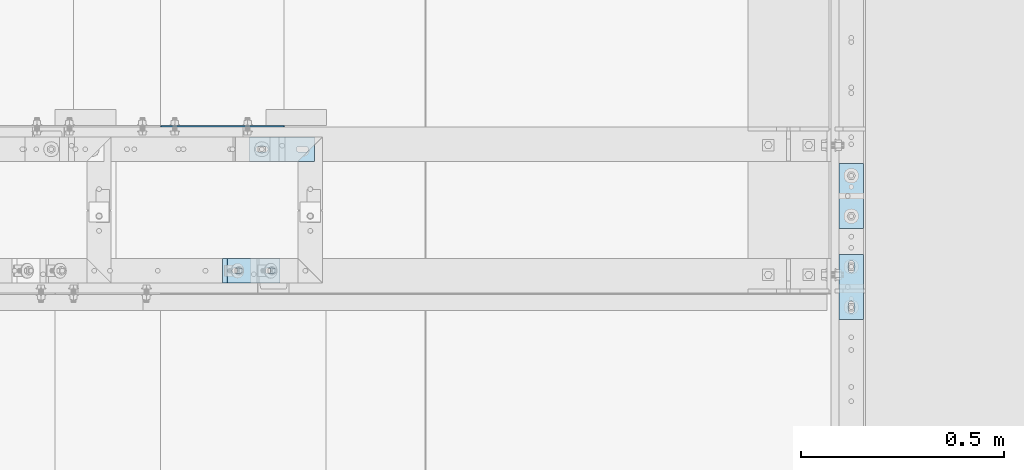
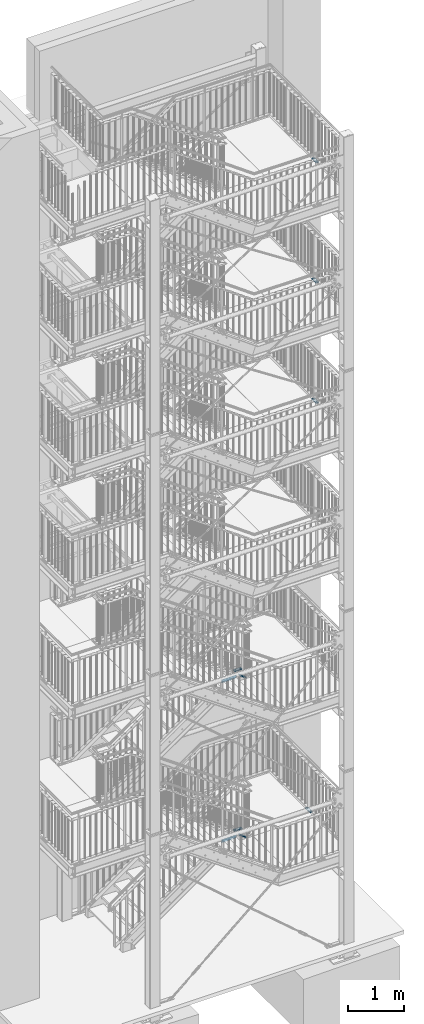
# One storey, part 204 of 831: 10 plates, 20 openings.
"""IFC2X3 building model written with IfcOpenShell, lengths in millimetres."""

from ifc_helpers import new_model, entity, si_unit, converted_unit, point, frame, frame_2d, origin, origin_with_axes, origin_2d_with_axis, place, context, project, spatial, polyline, circle_curve, line_curve, trimmed, segment, composite_curve, circle, outline, extrude, material, layer, layer_set, element, save


model = new_model("IFC2X3")

# Units and contexts
model_context = context("Model", 3, precision=1e-09, world=origin_with_axes())
ifc_project = project(units=[si_unit("LENGTHUNIT", "METRE", prefix="MILLI"), si_unit("AREAUNIT", "SQUARE_METRE"), si_unit("VOLUMEUNIT", "CUBIC_METRE"), converted_unit("PLANEANGLEUNIT", "DEGREE", entity("IfcPlaneAngleMeasure", 0.01745329), si_unit("PLANEANGLEUNIT", "RADIAN"), dimensions=[0, 0, 0, 0, 0, 0, 0])], contexts=[model_context])

# Site, building, storey
site_placement = place(None, origin_with_axes())
site = spatial("IfcSite", under=ifc_project, at=site_placement, Name="Site", CompositionType="ELEMENT")
building_placement = place(site_placement, origin_with_axes())
building = spatial("IfcBuilding", under=site, at=building_placement, Name="Struktur 1", CompositionType="ELEMENT")
storey_placement = place(building_placement, origin_with_axes())
storey = spatial("IfcBuildingStorey", under=building, at=storey_placement, Name="Default Storey", CompositionType="ELEMENT", Elevation=0.0)

# Plate, openings
ifc_material = material(Name="S235JR")
ifc_layer_1 = layer(ifc_material, 20.0)
ifc_layer_set_1 = layer_set([ifc_layer_1], Name="S235JR")
plate_1_placement = place(None, frame((9051.713402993, 5671.736114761, 11265.5000003), z_axis=(0.0, 0.0, 1.0), x_axis=(0.0, 1.0, 0.0)))
plate_1 = element("IfcPlate", 1, at=plate_1_placement, inside=storey, material=ifc_layer_set_1, Name="Plate#506", ObjectType="Plate#506", context=model_context, shape_type="SweptSolid", body=[
    extrude(outline(polyline([(0.0, 0.0), (160.0, 0.0), (160.0, 60.0), (0.0, 60.0), (0.0, 0.0)])), origin_with_axes(), (0.0, 0.0, 1.0), 20.0),
])
opening_1_placement = place(plate_1_placement, frame((38.0, 37.001, 20.5), z_axis=(0.0, 0.0, 1.0), x_axis=(-1.0, 0.0, 0.0)))
element("IfcOpeningElement", 2, at=opening_1_placement, cuts=plate_1, ObjectType="Opening", context=model_context, shape_type="SweptSolid", body=[
    extrude(outline(composite_curve([segment(trimmed(line_curve((0.0, 0.0), (1.0, 0.0), 16.0), [point((0.0, 0.0))], [point((16.0, 0.0))], True, "CARTESIAN"), True, "CONTINUOUS"), segment(trimmed(circle_curve(frame_2d((16.0, 7.001), x_axis=(1.0, 0.0)), 7.001), [point((16.0, 0.0))], [point((16.0, 14.002))], True, "CARTESIAN"), True, "CONTINUOUS"), segment(trimmed(line_curve((16.0, 14.002), (-1.0, 0.0), 16.0), [point((16.0, 14.002))], [point((0.0, 14.002))], True, "CARTESIAN"), True, "CONTINUOUS"), segment(trimmed(circle_curve(frame_2d((0.0, 7.001), x_axis=(1.0, 0.0)), 7.001), [point((0.0, 14.002))], [point((0.0, 0.0))], True, "CARTESIAN"), True, "CONTINUOUS")], self_intersect=False)), origin(), (0.0, 0.0, -1.0), 21.0),
])
opening_2_placement = place(plate_1_placement, frame((138.0, 37.001, 20.5), z_axis=(0.0, 0.0, 1.0), x_axis=(-1.0, 0.0, 0.0)))
element("IfcOpeningElement", 3, at=opening_2_placement, cuts=plate_1, ObjectType="Opening", context=model_context, shape_type="SweptSolid", body=[
    extrude(outline(composite_curve([segment(trimmed(line_curve((0.0, 0.0), (1.0, 0.0), 16.0), [point((0.0, 0.0))], [point((16.0, 0.0))], True, "CARTESIAN"), True, "CONTINUOUS"), segment(trimmed(circle_curve(frame_2d((16.0, 7.001), x_axis=(1.0, 0.0)), 7.001), [point((16.0, 0.0))], [point((16.0, 14.002))], True, "CARTESIAN"), True, "CONTINUOUS"), segment(trimmed(line_curve((16.0, 14.002), (-1.0, 0.0), 16.0), [point((16.0, 14.002))], [point((0.0, 14.002))], True, "CARTESIAN"), True, "CONTINUOUS"), segment(trimmed(circle_curve(frame_2d((0.0, 7.001), x_axis=(1.0, 0.0)), 7.001), [point((0.0, 14.002))], [point((0.0, 0.0))], True, "CARTESIAN"), True, "CONTINUOUS")], self_intersect=False)), origin(), (0.0, 0.0, -1.0), 21.0),
])

plate_2_placement = place(None, frame((9051.713402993, 5671.73611476, 13896.5000001), z_axis=(0.0, 0.0, 1.0), x_axis=(0.0, 1.0, 0.0)))
plate_2 = element("IfcPlate", 4, at=plate_2_placement, inside=storey, material=ifc_layer_set_1, Name="Plate#506", ObjectType="Plate#506", context=model_context, shape_type="SweptSolid", body=[
    extrude(outline(polyline([(0.0, 0.0), (160.0, 0.0), (160.0, 60.0), (0.0, 60.0), (0.0, 0.0)])), origin_with_axes(), (0.0, 0.0, 1.0), 20.0),
])
opening_3_placement = place(plate_2_placement, frame((38.0, 37.001, 20.5), z_axis=(0.0, 0.0, 1.0), x_axis=(-1.0, 0.0, 0.0)))
element("IfcOpeningElement", 5, at=opening_3_placement, cuts=plate_2, ObjectType="Opening", context=model_context, shape_type="SweptSolid", body=[
    extrude(outline(composite_curve([segment(trimmed(line_curve((0.0, 0.0), (1.0, 0.0), 16.0), [point((0.0, 0.0))], [point((16.0, 0.0))], True, "CARTESIAN"), True, "CONTINUOUS"), segment(trimmed(circle_curve(frame_2d((16.0, 7.001), x_axis=(1.0, 0.0)), 7.001), [point((16.0, 0.0))], [point((16.0, 14.002))], True, "CARTESIAN"), True, "CONTINUOUS"), segment(trimmed(line_curve((16.0, 14.002), (-1.0, 0.0), 16.0), [point((16.0, 14.002))], [point((0.0, 14.002))], True, "CARTESIAN"), True, "CONTINUOUS"), segment(trimmed(circle_curve(frame_2d((0.0, 7.001), x_axis=(1.0, 0.0)), 7.001), [point((0.0, 14.002))], [point((0.0, 0.0))], True, "CARTESIAN"), True, "CONTINUOUS")], self_intersect=False)), origin(), (0.0, 0.0, -1.0), 21.0),
])
opening_4_placement = place(plate_2_placement, frame((138.0, 37.001, 20.5), z_axis=(0.0, 0.0, 1.0), x_axis=(-1.0, 0.0, 0.0)))
element("IfcOpeningElement", 6, at=opening_4_placement, cuts=plate_2, ObjectType="Opening", context=model_context, shape_type="SweptSolid", body=[
    extrude(outline(composite_curve([segment(trimmed(line_curve((0.0, 0.0), (1.0, 0.0), 16.0), [point((0.0, 0.0))], [point((16.0, 0.0))], True, "CARTESIAN"), True, "CONTINUOUS"), segment(trimmed(circle_curve(frame_2d((16.0, 7.001), x_axis=(1.0, 0.0)), 7.001), [point((16.0, 0.0))], [point((16.0, 14.002))], True, "CARTESIAN"), True, "CONTINUOUS"), segment(trimmed(line_curve((16.0, 14.002), (-1.0, 0.0), 16.0), [point((16.0, 14.002))], [point((0.0, 14.002))], True, "CARTESIAN"), True, "CONTINUOUS"), segment(trimmed(circle_curve(frame_2d((0.0, 7.001), x_axis=(1.0, 0.0)), 7.001), [point((0.0, 14.002))], [point((0.0, 0.0))], True, "CARTESIAN"), True, "CONTINUOUS")], self_intersect=False)), origin(), (0.0, 0.0, -1.0), 21.0),
])

plate_3_placement = place(None, frame((9051.713402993, 5671.736114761, 16524.0000003), z_axis=(0.0, 0.0, 1.0), x_axis=(0.0, 1.0, 0.0)))
plate_3 = element("IfcPlate", 7, at=plate_3_placement, inside=storey, material=ifc_layer_set_1, Name="Plate#506", ObjectType="Plate#506", context=model_context, shape_type="SweptSolid", body=[
    extrude(outline(polyline([(0.0, 0.0), (160.0, 0.0), (160.0, 60.0), (0.0, 60.0), (0.0, 0.0)])), origin_with_axes(), (0.0, 0.0, 1.0), 20.0),
])
opening_5_placement = place(plate_3_placement, frame((38.0, 37.001, 20.5), z_axis=(0.0, 0.0, 1.0), x_axis=(-1.0, 0.0, 0.0)))
element("IfcOpeningElement", 8, at=opening_5_placement, cuts=plate_3, ObjectType="Opening", context=model_context, shape_type="SweptSolid", body=[
    extrude(outline(composite_curve([segment(trimmed(line_curve((0.0, 0.0), (1.0, 0.0), 16.0), [point((0.0, 0.0))], [point((16.0, 0.0))], True, "CARTESIAN"), True, "CONTINUOUS"), segment(trimmed(circle_curve(frame_2d((16.0, 7.001), x_axis=(1.0, 0.0)), 7.001), [point((16.0, 0.0))], [point((16.0, 14.002))], True, "CARTESIAN"), True, "CONTINUOUS"), segment(trimmed(line_curve((16.0, 14.002), (-1.0, 0.0), 16.0), [point((16.0, 14.002))], [point((0.0, 14.002))], True, "CARTESIAN"), True, "CONTINUOUS"), segment(trimmed(circle_curve(frame_2d((0.0, 7.001), x_axis=(1.0, 0.0)), 7.001), [point((0.0, 14.002))], [point((0.0, 0.0))], True, "CARTESIAN"), True, "CONTINUOUS")], self_intersect=False)), origin(), (0.0, 0.0, -1.0), 21.0),
])
opening_6_placement = place(plate_3_placement, frame((138.0, 37.001, 20.5), z_axis=(0.0, 0.0, 1.0), x_axis=(-1.0, 0.0, 0.0)))
element("IfcOpeningElement", 9, at=opening_6_placement, cuts=plate_3, ObjectType="Opening", context=model_context, shape_type="SweptSolid", body=[
    extrude(outline(composite_curve([segment(trimmed(line_curve((0.0, 0.0), (1.0, 0.0), 16.0), [point((0.0, 0.0))], [point((16.0, 0.0))], True, "CARTESIAN"), True, "CONTINUOUS"), segment(trimmed(circle_curve(frame_2d((16.0, 7.001), x_axis=(1.0, 0.0)), 7.001), [point((16.0, 0.0))], [point((16.0, 14.002))], True, "CARTESIAN"), True, "CONTINUOUS"), segment(trimmed(line_curve((16.0, 14.002), (-1.0, 0.0), 16.0), [point((16.0, 14.002))], [point((0.0, 14.002))], True, "CARTESIAN"), True, "CONTINUOUS"), segment(trimmed(circle_curve(frame_2d((0.0, 7.001), x_axis=(1.0, 0.0)), 7.001), [point((0.0, 14.002))], [point((0.0, 0.0))], True, "CARTESIAN"), True, "CONTINUOUS")], self_intersect=False)), origin(), (0.0, 0.0, -1.0), 21.0),
])

plate_4_placement = place(None, frame((7696.713902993, 6121.736971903, 2181.0526312), z_axis=(0.0, 0.0, 1.0), x_axis=(-1.0, 0.0, 0.0)))
plate_4 = element("IfcPlate", 10, at=plate_4_placement, inside=storey, material=ifc_layer_set_1, Name="Plate#502", ObjectType="Plate#502", context=model_context, shape_type="SweptSolid", body=[
    extrude(outline(polyline([(0.0, 0.0), (160.0, 0.0), (160.0, 60.0), (0.0, 60.0), (0.0, 0.0)])), origin_with_axes(), (0.0, 0.0, 1.0), 20.0),
])
opening_7_placement = place(plate_4_placement, frame((38.0, 37.001, 20.5), z_axis=(0.0, 0.0, 1.0), x_axis=(-1.0, 0.0, 0.0)))
element("IfcOpeningElement", 11, at=opening_7_placement, cuts=plate_4, ObjectType="Opening", context=model_context, shape_type="SweptSolid", body=[
    extrude(outline(composite_curve([segment(trimmed(line_curve((0.0, 0.0), (1.0, 0.0), 16.0), [point((0.0, 0.0))], [point((16.0, 0.0))], True, "CARTESIAN"), True, "CONTINUOUS"), segment(trimmed(circle_curve(frame_2d((16.0, 7.001), x_axis=(1.0, 0.0)), 7.001), [point((16.0, 0.0))], [point((16.0, 14.002))], True, "CARTESIAN"), True, "CONTINUOUS"), segment(trimmed(line_curve((16.0, 14.002), (-1.0, 0.0), 16.0), [point((16.0, 14.002))], [point((0.0, 14.002))], True, "CARTESIAN"), True, "CONTINUOUS"), segment(trimmed(circle_curve(frame_2d((0.0, 7.001), x_axis=(1.0, 0.0)), 7.001), [point((0.0, 14.002))], [point((0.0, 0.0))], True, "CARTESIAN"), True, "CONTINUOUS")], self_intersect=False)), origin(), (0.0, 0.0, -1.0), 21.0),
])
opening_8_placement = place(plate_4_placement, frame((138.0, 37.001, 20.5), z_axis=(0.0, 0.0, 1.0), x_axis=(-1.0, 0.0, 0.0)))
element("IfcOpeningElement", 12, at=opening_8_placement, cuts=plate_4, ObjectType="Opening", context=model_context, shape_type="SweptSolid", body=[
    extrude(outline(composite_curve([segment(trimmed(line_curve((0.0, 0.0), (1.0, 0.0), 16.0), [point((0.0, 0.0))], [point((16.0, 0.0))], True, "CARTESIAN"), True, "CONTINUOUS"), segment(trimmed(circle_curve(frame_2d((16.0, 7.001), x_axis=(1.0, 0.0)), 7.001), [point((16.0, 0.0))], [point((16.0, 14.002))], True, "CARTESIAN"), True, "CONTINUOUS"), segment(trimmed(line_curve((16.0, 14.002), (-1.0, 0.0), 16.0), [point((16.0, 14.002))], [point((0.0, 14.002))], True, "CARTESIAN"), True, "CONTINUOUS"), segment(trimmed(circle_curve(frame_2d((0.0, 7.001), x_axis=(1.0, 0.0)), 7.001), [point((0.0, 14.002))], [point((0.0, 0.0))], True, "CARTESIAN"), True, "CONTINUOUS")], self_intersect=False)), origin(), (0.0, 0.0, -1.0), 21.0),
])

plate_5_placement = place(None, frame((9051.713402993, 5896.351913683, 2181.0526312), z_axis=(0.0, 0.0, 1.0), x_axis=(0.0, 1.0, 0.0)))
plate_5 = element("IfcPlate", 13, at=plate_5_placement, inside=storey, material=ifc_layer_set_1, Name="Plate#505", ObjectType="Plate#505", context=model_context, shape_type="SweptSolid", body=[
    extrude(outline(polyline([(0.0, 0.0), (160.0, 0.0), (160.0, 60.0), (0.0, 60.0), (0.0, 0.0)])), origin_with_axes(), (0.0, 0.0, 1.0), 20.0),
])
opening_9_placement = place(plate_5_placement, frame((38.0, 37.001, 20.5), z_axis=(0.0, 0.0, 1.0), x_axis=(-1.0, 0.0, 0.0)))
element("IfcOpeningElement", 14, at=opening_9_placement, cuts=plate_5, ObjectType="Opening", context=model_context, shape_type="SweptSolid", body=[
    extrude(outline(composite_curve([segment(trimmed(line_curve((0.0, 0.0), (1.0, 0.0), 16.0), [point((0.0, 0.0))], [point((16.0, 0.0))], True, "CARTESIAN"), True, "CONTINUOUS"), segment(trimmed(circle_curve(frame_2d((16.0, 7.001), x_axis=(1.0, 0.0)), 7.001), [point((16.0, 0.0))], [point((16.0, 14.002))], True, "CARTESIAN"), True, "CONTINUOUS"), segment(trimmed(line_curve((16.0, 14.002), (-1.0, 0.0), 16.0), [point((16.0, 14.002))], [point((0.0, 14.002))], True, "CARTESIAN"), True, "CONTINUOUS"), segment(trimmed(circle_curve(frame_2d((0.0, 7.001), x_axis=(1.0, 0.0)), 7.001), [point((0.0, 14.002))], [point((0.0, 0.0))], True, "CARTESIAN"), True, "CONTINUOUS")], self_intersect=False)), origin(), (0.0, 0.0, -1.0), 21.0),
])
opening_10_placement = place(plate_5_placement, frame((138.0, 37.001, 20.5), z_axis=(0.0, 0.0, 1.0), x_axis=(-1.0, 0.0, 0.0)))
element("IfcOpeningElement", 15, at=opening_10_placement, cuts=plate_5, ObjectType="Opening", context=model_context, shape_type="SweptSolid", body=[
    extrude(outline(composite_curve([segment(trimmed(line_curve((0.0, 0.0), (1.0, 0.0), 16.0), [point((0.0, 0.0))], [point((16.0, 0.0))], True, "CARTESIAN"), True, "CONTINUOUS"), segment(trimmed(circle_curve(frame_2d((16.0, 7.001), x_axis=(1.0, 0.0)), 7.001), [point((16.0, 0.0))], [point((16.0, 14.002))], True, "CARTESIAN"), True, "CONTINUOUS"), segment(trimmed(line_curve((16.0, 14.002), (-1.0, 0.0), 16.0), [point((16.0, 14.002))], [point((0.0, 14.002))], True, "CARTESIAN"), True, "CONTINUOUS"), segment(trimmed(circle_curve(frame_2d((0.0, 7.001), x_axis=(1.0, 0.0)), 7.001), [point((0.0, 14.002))], [point((0.0, 0.0))], True, "CARTESIAN"), True, "CONTINUOUS")], self_intersect=False)), origin(), (0.0, 0.0, -1.0), 21.0),
])

ifc_layer_2 = layer(ifc_material, 3.0)
ifc_layer_set_2 = layer_set([ifc_layer_2], Name="S235JR")
plate_6_placement = place(None, frame((7316.713402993, 6149.736971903, 2035.947368), z_axis=(0.0, -1.0, 0.0), x_axis=(0.0, 0.0, -1.0)))
plate_6 = element("IfcPlate", 16, at=plate_6_placement, inside=storey, material=ifc_layer_set_2, Name="Grate_Step#59", ObjectType="Grate_Step#59", context=model_context, shape_type="SweptSolid", body=[
    extrude(outline(polyline([(0.0, 0.0), (70.0, 0.0), (70.0, 275.0), (40.0, 305.0), (0.0, 305.0), (0.0, 0.0)])), origin_with_axes(), (0.0, 0.0, 1.0), 3.0),
])
opening_11_placement = place(plate_6_placement, frame((55.0, 215.0, -0.5), z_axis=(0.0, 0.0, 1.0), x_axis=(0.0, 1.0, 0.0)))
element("IfcOpeningElement", 17, at=opening_11_placement, cuts=plate_6, ObjectType="Opening", context=model_context, shape_type="SweptSolid", body=[
    extrude(outline(composite_curve([segment(trimmed(line_curve((-9.5, -7.001), (1.0, 0.0), 19.0), [point((-9.5, -7.001))], [point((9.5, -7.001))], True, "CARTESIAN"), True, "CONTINUOUS"), segment(trimmed(circle_curve(frame_2d((9.5, 0.0), x_axis=(1.0, 0.0)), 7.001), [point((9.5, -7.001))], [point((9.5, 7.001))], True, "CARTESIAN"), True, "CONTINUOUS"), segment(trimmed(line_curve((9.5, 7.001), (-1.0, 0.0), 19.0), [point((9.5, 7.001))], [point((-9.5, 7.001))], True, "CARTESIAN"), True, "CONTINUOUS"), segment(trimmed(circle_curve(frame_2d((-9.5, 0.0), x_axis=(1.0, 0.0)), 7.001), [point((-9.5, 7.001))], [point((-9.5, -7.001))], True, "CARTESIAN"), True, "CONTINUOUS")], self_intersect=False)), origin(), (0.0, 0.0, 1.0), 4.0),
])
opening_12_placement = place(plate_6_placement, frame((55.0, 35.0, -0.5), z_axis=(0.0, 0.0, 1.0), x_axis=(0.0, 1.0, 0.0)))
element("IfcOpeningElement", 18, at=opening_12_placement, cuts=plate_6, ObjectType="Opening", context=model_context, shape_type="SweptSolid", body=[
    extrude(circle(Radius=7.001, at=origin_2d_with_axis()), origin(), (0.0, 0.0, 1.0), 4.0),
])

plate_7_placement = place(None, frame((7316.713402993, 6149.736971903, 5532.105263), z_axis=(0.0, -1.0, 0.0), x_axis=(0.0, 0.0, -1.0)))
plate_7 = element("IfcPlate", 19, at=plate_7_placement, inside=storey, material=ifc_layer_set_2, Name="Grate_Step#59", ObjectType="Grate_Step#59", context=model_context, shape_type="SweptSolid", body=[
    extrude(outline(polyline([(0.0, 0.0), (70.0, 0.0), (70.0, 275.0), (40.0, 305.0), (0.0, 305.0), (0.0, 0.0)])), origin_with_axes(), (0.0, 0.0, 1.0), 3.0),
])
opening_13_placement = place(plate_7_placement, frame((55.0, 35.0, -0.5), z_axis=(0.0, 0.0, 1.0), x_axis=(0.0, 1.0, 0.0)))
element("IfcOpeningElement", 20, at=opening_13_placement, cuts=plate_7, ObjectType="Opening", context=model_context, shape_type="SweptSolid", body=[
    extrude(circle(Radius=7.001, at=origin_2d_with_axis()), origin(), (0.0, 0.0, 1.0), 4.0),
])
opening_14_placement = place(plate_7_placement, frame((55.0, 215.0, -0.5), z_axis=(0.0, 0.0, 1.0), x_axis=(0.0, 1.0, 0.0)))
element("IfcOpeningElement", 21, at=opening_14_placement, cuts=plate_7, ObjectType="Opening", context=model_context, shape_type="SweptSolid", body=[
    extrude(outline(composite_curve([segment(trimmed(line_curve((-9.5, -7.001), (1.0, 0.0), 19.0), [point((-9.5, -7.001))], [point((9.5, -7.001))], True, "CARTESIAN"), True, "CONTINUOUS"), segment(trimmed(circle_curve(frame_2d((9.5, 0.0), x_axis=(1.0, 0.0)), 7.001), [point((9.5, -7.001))], [point((9.5, 7.001))], True, "CARTESIAN"), True, "CONTINUOUS"), segment(trimmed(line_curve((9.5, 7.001), (-1.0, 0.0), 19.0), [point((9.5, 7.001))], [point((-9.5, 7.001))], True, "CARTESIAN"), True, "CONTINUOUS"), segment(trimmed(circle_curve(frame_2d((-9.5, 0.0), x_axis=(1.0, 0.0)), 7.001), [point((-9.5, 7.001))], [point((-9.5, -7.001))], True, "CARTESIAN"), True, "CONTINUOUS")], self_intersect=False)), origin(), (0.0, 0.0, 1.0), 4.0),
])

plate_8_placement = place(None, frame((7696.713902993, 6121.736971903, 5674.8947367), z_axis=(0.0, 0.0, 1.0), x_axis=(-1.0, 0.0, 0.0)))
plate_8 = element("IfcPlate", 22, at=plate_8_placement, inside=storey, material=ifc_layer_set_1, Name="Plate#503", ObjectType="Plate#503", context=model_context, shape_type="SweptSolid", body=[
    extrude(outline(polyline([(0.0, 0.0), (160.0, 0.0), (160.0, 60.0), (0.0, 60.0), (0.0, 0.0)])), origin_with_axes(), (0.0, 0.0, 1.0), 20.0),
])
opening_15_placement = place(plate_8_placement, frame((38.0, 37.001, 20.5), z_axis=(0.0, 0.0, 1.0), x_axis=(-1.0, 0.0, 0.0)))
element("IfcOpeningElement", 23, at=opening_15_placement, cuts=plate_8, ObjectType="Opening", context=model_context, shape_type="SweptSolid", body=[
    extrude(outline(composite_curve([segment(trimmed(line_curve((0.0, 0.0), (1.0, 0.0), 16.0), [point((0.0, 0.0))], [point((16.0, 0.0))], True, "CARTESIAN"), True, "CONTINUOUS"), segment(trimmed(circle_curve(frame_2d((16.0, 7.001), x_axis=(1.0, 0.0)), 7.001), [point((16.0, 0.0))], [point((16.0, 14.002))], True, "CARTESIAN"), True, "CONTINUOUS"), segment(trimmed(line_curve((16.0, 14.002), (-1.0, 0.0), 16.0), [point((16.0, 14.002))], [point((0.0, 14.002))], True, "CARTESIAN"), True, "CONTINUOUS"), segment(trimmed(circle_curve(frame_2d((0.0, 7.001), x_axis=(1.0, 0.0)), 7.001), [point((0.0, 14.002))], [point((0.0, 0.0))], True, "CARTESIAN"), True, "CONTINUOUS")], self_intersect=False)), origin(), (0.0, 0.0, -1.0), 21.0),
])
opening_16_placement = place(plate_8_placement, frame((138.0, 37.001, 20.5), z_axis=(0.0, 0.0, 1.0), x_axis=(-1.0, 0.0, 0.0)))
element("IfcOpeningElement", 24, at=opening_16_placement, cuts=plate_8, ObjectType="Opening", context=model_context, shape_type="SweptSolid", body=[
    extrude(outline(composite_curve([segment(trimmed(line_curve((0.0, 0.0), (1.0, 0.0), 16.0), [point((0.0, 0.0))], [point((16.0, 0.0))], True, "CARTESIAN"), True, "CONTINUOUS"), segment(trimmed(circle_curve(frame_2d((16.0, 7.001), x_axis=(1.0, 0.0)), 7.001), [point((16.0, 0.0))], [point((16.0, 14.002))], True, "CARTESIAN"), True, "CONTINUOUS"), segment(trimmed(line_curve((16.0, 14.002), (-1.0, 0.0), 16.0), [point((16.0, 14.002))], [point((0.0, 14.002))], True, "CARTESIAN"), True, "CONTINUOUS"), segment(trimmed(circle_curve(frame_2d((0.0, 7.001), x_axis=(1.0, 0.0)), 7.001), [point((0.0, 14.002))], [point((0.0, 0.0))], True, "CARTESIAN"), True, "CONTINUOUS")], self_intersect=False)), origin(), (0.0, 0.0, -1.0), 21.0),
])

plate_9_placement = place(None, frame((7470.039705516, 5761.736971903, 2296.998257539), z_axis=(0.579973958, 0.0, 0.814635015), x_axis=(0.814635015, 0.0, -0.579973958)))
plate_9 = element("IfcPlate", 25, at=plate_9_placement, inside=storey, material=ifc_layer_set_1, Name="Plate#500", ObjectType="Plate#500", context=model_context, shape_type="SweptSolid", body=[
    extrude(outline(polyline([(0.0, 0.0), (160.0, 0.0), (160.0, 60.0), (0.0, 60.0), (0.0, 0.0)])), origin_with_axes(), (0.0, 0.0, 1.0), 20.0),
])
opening_17_placement = place(plate_9_placement, frame((38.0, 37.001, 20.5), z_axis=(0.0, 0.0, 1.0), x_axis=(-1.0, 0.0, 0.0)))
element("IfcOpeningElement", 26, at=opening_17_placement, cuts=plate_9, ObjectType="Opening", context=model_context, shape_type="SweptSolid", body=[
    extrude(outline(composite_curve([segment(trimmed(line_curve((0.0, 0.0), (1.0, 0.0), 16.0), [point((0.0, 0.0))], [point((16.0, 0.0))], True, "CARTESIAN"), True, "CONTINUOUS"), segment(trimmed(circle_curve(frame_2d((16.0, 7.001), x_axis=(1.0, 0.0)), 7.001), [point((16.0, 0.0))], [point((16.0, 14.002))], True, "CARTESIAN"), True, "CONTINUOUS"), segment(trimmed(line_curve((16.0, 14.002), (-1.0, 0.0), 16.0), [point((16.0, 14.002))], [point((0.0, 14.002))], True, "CARTESIAN"), True, "CONTINUOUS"), segment(trimmed(circle_curve(frame_2d((0.0, 7.001), x_axis=(1.0, 0.0)), 7.001), [point((0.0, 14.002))], [point((0.0, 0.0))], True, "CARTESIAN"), True, "CONTINUOUS")], self_intersect=False)), origin(), (0.0, 0.0, -1.0), 21.0),
])
opening_18_placement = place(plate_9_placement, frame((138.0, 37.001, 20.5), z_axis=(0.0, 0.0, 1.0), x_axis=(-1.0, 0.0, 0.0)))
element("IfcOpeningElement", 27, at=opening_18_placement, cuts=plate_9, ObjectType="Opening", context=model_context, shape_type="SweptSolid", body=[
    extrude(outline(composite_curve([segment(trimmed(line_curve((0.0, 0.0), (1.0, 0.0), 16.0), [point((0.0, 0.0))], [point((16.0, 0.0))], True, "CARTESIAN"), True, "CONTINUOUS"), segment(trimmed(circle_curve(frame_2d((16.0, 7.001), x_axis=(1.0, 0.0)), 7.001), [point((16.0, 0.0))], [point((16.0, 14.002))], True, "CARTESIAN"), True, "CONTINUOUS"), segment(trimmed(line_curve((16.0, 14.002), (-1.0, 0.0), 16.0), [point((16.0, 14.002))], [point((0.0, 14.002))], True, "CARTESIAN"), True, "CONTINUOUS"), segment(trimmed(circle_curve(frame_2d((0.0, 7.001), x_axis=(1.0, 0.0)), 7.001), [point((0.0, 14.002))], [point((0.0, 0.0))], True, "CARTESIAN"), True, "CONTINUOUS")], self_intersect=False)), origin(), (0.0, 0.0, -1.0), 21.0),
])

plate_10_placement = place(None, frame((7469.696690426, 5761.736971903, 5790.131385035), z_axis=(0.57512827, 0.0, 0.818063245), x_axis=(0.818063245, 0.0, -0.57512827)))
plate_10 = element("IfcPlate", 28, at=plate_10_placement, inside=storey, material=ifc_layer_set_1, Name="Plate#500", ObjectType="Plate#500", context=model_context, shape_type="SweptSolid", body=[
    extrude(outline(polyline([(0.0, 0.0), (160.0, 0.0), (160.0, 60.0), (0.0, 60.0), (0.0, 0.0)])), origin_with_axes(), (0.0, 0.0, 1.0), 20.0),
])
opening_19_placement = place(plate_10_placement, frame((38.0, 37.001, 20.5), z_axis=(0.0, 0.0, 1.0), x_axis=(-1.0, 0.0, 0.0)))
element("IfcOpeningElement", 29, at=opening_19_placement, cuts=plate_10, ObjectType="Opening", context=model_context, shape_type="SweptSolid", body=[
    extrude(outline(composite_curve([segment(trimmed(line_curve((0.0, 0.0), (1.0, 0.0), 16.0), [point((0.0, 0.0))], [point((16.0, 0.0))], True, "CARTESIAN"), True, "CONTINUOUS"), segment(trimmed(circle_curve(frame_2d((16.0, 7.001), x_axis=(1.0, 0.0)), 7.001), [point((16.0, 0.0))], [point((16.0, 14.002))], True, "CARTESIAN"), True, "CONTINUOUS"), segment(trimmed(line_curve((16.0, 14.002), (-1.0, 0.0), 16.0), [point((16.0, 14.002))], [point((0.0, 14.002))], True, "CARTESIAN"), True, "CONTINUOUS"), segment(trimmed(circle_curve(frame_2d((0.0, 7.001), x_axis=(1.0, 0.0)), 7.001), [point((0.0, 14.002))], [point((0.0, 0.0))], True, "CARTESIAN"), True, "CONTINUOUS")], self_intersect=False)), origin(), (0.0, 0.0, -1.0), 21.0),
])
opening_20_placement = place(plate_10_placement, frame((138.0, 37.001, 20.5), z_axis=(0.0, 0.0, 1.0), x_axis=(-1.0, 0.0, 0.0)))
element("IfcOpeningElement", 30, at=opening_20_placement, cuts=plate_10, ObjectType="Opening", context=model_context, shape_type="SweptSolid", body=[
    extrude(outline(composite_curve([segment(trimmed(line_curve((0.0, 0.0), (1.0, 0.0), 16.0), [point((0.0, 0.0))], [point((16.0, 0.0))], True, "CARTESIAN"), True, "CONTINUOUS"), segment(trimmed(circle_curve(frame_2d((16.0, 7.001), x_axis=(1.0, 0.0)), 7.001), [point((16.0, 0.0))], [point((16.0, 14.002))], True, "CARTESIAN"), True, "CONTINUOUS"), segment(trimmed(line_curve((16.0, 14.002), (-1.0, 0.0), 16.0), [point((16.0, 14.002))], [point((0.0, 14.002))], True, "CARTESIAN"), True, "CONTINUOUS"), segment(trimmed(circle_curve(frame_2d((0.0, 7.001), x_axis=(1.0, 0.0)), 7.001), [point((0.0, 14.002))], [point((0.0, 0.0))], True, "CARTESIAN"), True, "CONTINUOUS")], self_intersect=False)), origin(), (0.0, 0.0, -1.0), 21.0),
])

save(model, "model.ifc")
